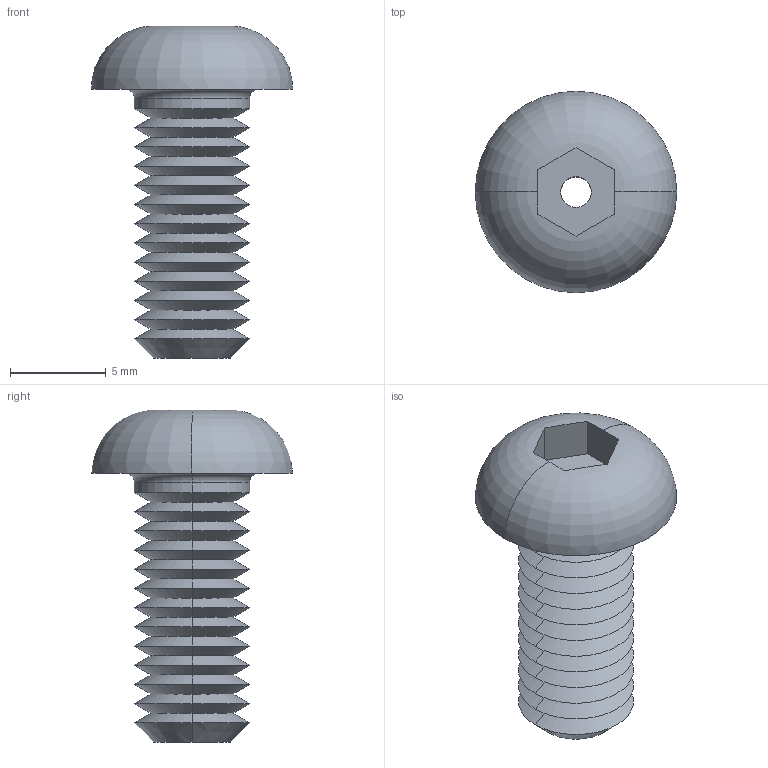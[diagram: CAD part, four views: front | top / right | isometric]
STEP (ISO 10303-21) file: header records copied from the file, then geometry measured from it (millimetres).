
FILE_DESCRIPTION (( 'STEP AP203' ), '1' );
FILE_NAME ('P0094.060-014-A2.step', '2019-07-12T16:55:15', ( '' ), ( '' ), 'SwSTEP 2.0', 'SolidWorks 2017', '' );
FILE_SCHEMA (( 'CONFIG_CONTROL_DESIGN' ));
Length unit declared in the file: millimetre
Products named in the file (1): P0094.060-014-A2
Bounding box: 10.5 x 10.5 x 17.3 mm (x, y, z)
Volume: 460.1 mm3; surface area: 740.2 mm2
Topology: 1 solids, 1 shells, 67 faces, 140 edges, 76 vertices
Faces by surface type: cone 50, plane 9, cylinder 4, torus 4
Entity records: 1845 total; most frequent: DIRECTION 334, CARTESIAN_POINT 320, ORIENTED_EDGE 280, EDGE_CURVE 140, AXIS2_PLACEMENT_3D 134, VERTEX_POINT 76, EDGE_LOOP 70, ADVANCED_FACE 67
